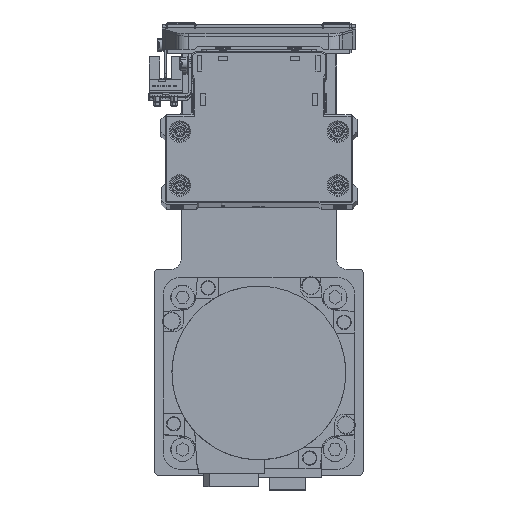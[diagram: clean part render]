
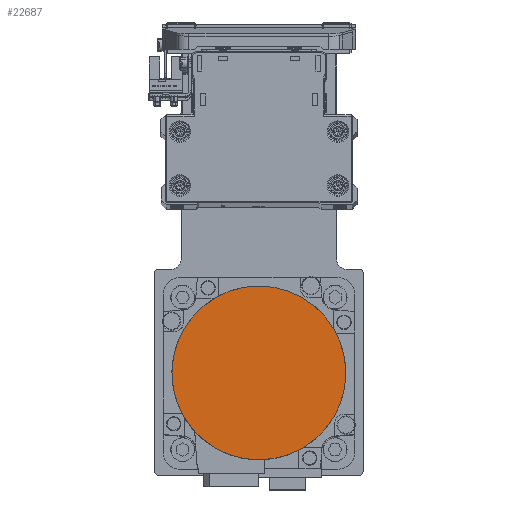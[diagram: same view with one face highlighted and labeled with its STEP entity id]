
A CAD part, top view. The second image highlights one B-rep face of the part: STEP entity #22687.
In plain terms, the highlighted planar face has unit normal (0, 0, 1) as drawn and (0, 0, -1) by its records, which use the part's own axes.
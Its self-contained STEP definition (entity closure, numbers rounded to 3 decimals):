
#76 = DIRECTION ( 'NONE',  ( 0., 0., 1. ) ) ;
#3113 = FACE_OUTER_BOUND ( 'NONE', #31489, .T. ) ;
#3703 = DIRECTION ( 'NONE',  ( 0., -1., 0. ) ) ;
#5650 = EDGE_CURVE ( 'NONE', #14378, #6345, #35422, .T. ) ;
#6345 = VERTEX_POINT ( 'NONE', #9209 ) ;
#7456 = DIRECTION ( 'NONE',  ( 0., 0., 1. ) ) ;
#8533 = AXIS2_PLACEMENT_3D ( 'NONE', #27849, #76, #12440 ) ;
#9209 = CARTESIAN_POINT ( 'NONE',  ( 0., -36.3, -122.2 ) ) ;
#9718 = CIRCLE ( 'NONE', #32409, 36.3 ) ;
#12440 = DIRECTION ( 'NONE',  ( 1., 0., 0. ) ) ;
#14378 = VERTEX_POINT ( 'NONE', #31179 ) ;
#15492 = PLANE ( 'NONE',  #8533 ) ;
#17917 = AXIS2_PLACEMENT_3D ( 'NONE', #35253, #7456, #19829 ) ;
#19107 = CARTESIAN_POINT ( 'NONE',  ( 0., 0., -122.2 ) ) ;
#19829 = DIRECTION ( 'NONE',  ( 0., 1., 0. ) ) ;
#22687 = ADVANCED_FACE ( 'NONE', ( #3113 ), #15492, .F. ) ;
#27849 = CARTESIAN_POINT ( 'NONE',  ( 0., 0., -122.2 ) ) ;
#28606 = EDGE_CURVE ( 'NONE', #6345, #14378, #9718, .T. ) ;
#31179 = CARTESIAN_POINT ( 'NONE',  ( 0., 36.3, -122.2 ) ) ;
#31470 = DIRECTION ( 'NONE',  ( 0., 0., 1. ) ) ;
#31489 = EDGE_LOOP ( 'NONE', ( #32553, #33813 ) ) ;
#32409 = AXIS2_PLACEMENT_3D ( 'NONE', #19107, #31470, #3703 ) ;
#32553 = ORIENTED_EDGE ( 'NONE', *, *, #5650, .F. ) ;
#33813 = ORIENTED_EDGE ( 'NONE', *, *, #28606, .F. ) ;
#35253 = CARTESIAN_POINT ( 'NONE',  ( 0., 0., -122.2 ) ) ;
#35422 = CIRCLE ( 'NONE', #17917, 36.3 ) ;
